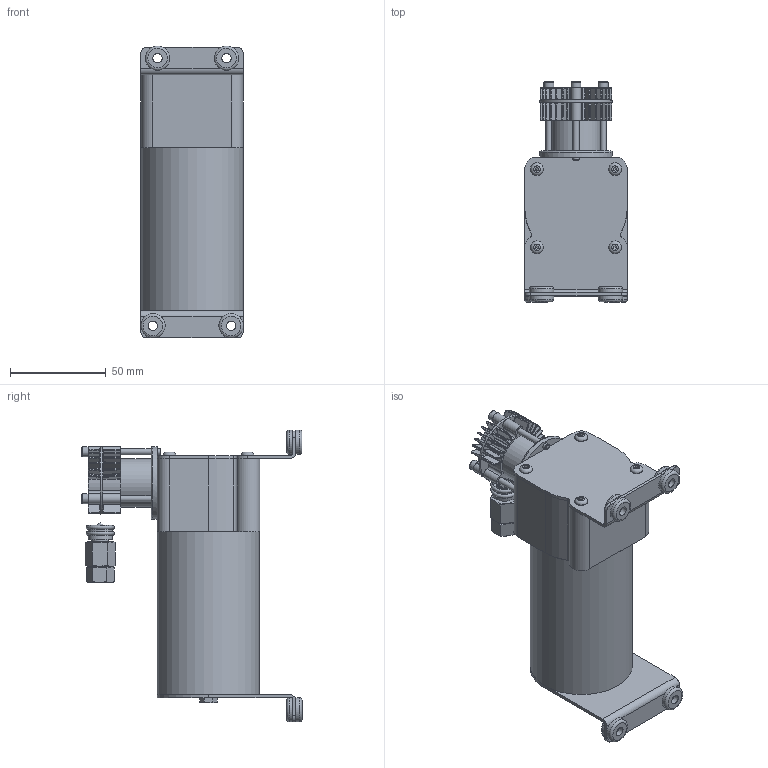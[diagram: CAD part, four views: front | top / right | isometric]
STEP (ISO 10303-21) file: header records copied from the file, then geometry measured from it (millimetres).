
FILE_DESCRIPTION(/* description */ (''),/* implementation_level */ '2;1');
FILE_NAME(/* name */ 'Compressor VIAIR .step',/* time_stamp */ '2022-12-29T16:09:45-08:00',/* author */ (''),/* organization */ (''),/* preprocessor_version */ 'ST-DEVELOPER v19.2',/* originating_system */ 'Autodesk Translation Framework v11.17.0.187',/* authorisation */ '');
FILE_SCHEMA (('AUTOMOTIVE_DESIGN { 1 0 10303 214 3 1 1 }'));
Length unit declared in the file: inch
Products named in the file (12): Compressor VIAIR; Pneumatics_VIAIR_0090_01; Pneumatics_VIAIR_0090_02; Pneumatics_VIAIR_00090_03; Pneumatics_VIAIR_0090_04; Pneumatic_VIAIR_Fitting; Pneumatics_VIAIR_Fitting_01; Pneumatics_VIAIR_00090_02; Hexagon Socket Head Cap Screw - Inch No. 5 - 40 UNC - 1 1_2; Hexagon Socket Button Head Cap Screw - Inch 6 - 32 x 1_4; Indented Large Hex Head Machine Screw - Inch 8-32 UNC - 1.25; Pneumatic_VIAIAR_00090_05
Assembly tree (20 placements, depth 2):
  Compressor VIAIR
    Pneumatics_VIAIR_0090_01
    Pneumatics_VIAIR_0090_02
    Pneumatics_VIAIR_00090_03
    Pneumatics_VIAIR_0090_04
    Pneumatic_VIAIR_Fitting
    Pneumatics_VIAIR_Fitting_01
    Pneumatics_VIAIR_00090_02
    Hexagon Socket Head Cap Screw - Inch No. 5 - 40 UNC - 1 1_2  x3
    Hexagon Socket Button Head Cap Screw - Inch 6 - 32 x 1_4  x4
    Indented Large Hex Head Machine Screw - Inch 8-32 UNC - 1.25  x2
    Pneumatic_VIAIAR_00090_05  x4
Bounding box: 53.65 x 115.09 x 152.71 mm (x, y, z)
Volume: 337062 mm3; surface area: 70821.6 mm2
Topology: 19 solids, 21 shells, 882 faces, 2165 edges, 1334 vertices
Faces by surface type: bspline 261, plane 257, cylinder 254, sphere 45, cone 40, torus 25
Full cylindrical faces by diameter (mm): 3.175 x3, 3.277 x6, 3.302 x2, 3.505 x4, 3.81 x6, 4.166 x2, 4.823 x4, 5.105 x4, 5.207 x3, 6.34 x2, 6.655 x4, 6.693 x4, 7.95 x1, 12.7 x2, 12.761 x8, 25.4 x2, 38.1 x1, 53.594 x1
Entity records: 35241 total; most frequent: CARTESIAN_POINT 18328, ORIENTED_EDGE 3723, DIRECTION 3059, EDGE_CURVE 1866, AXIS2_PLACEMENT_3D 1273, VERTEX_POINT 1148, EDGE_LOOP 813, FACE_OUTER_BOUND 758
